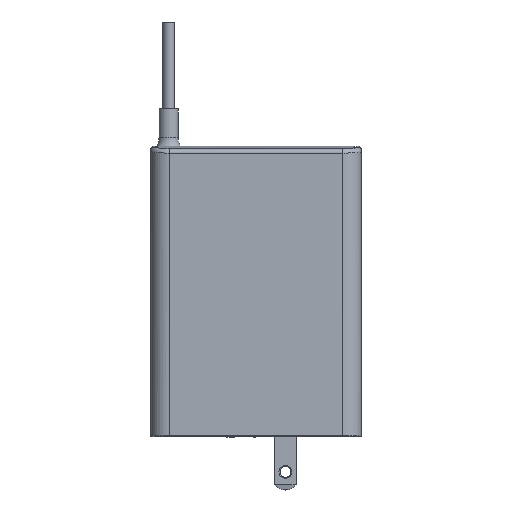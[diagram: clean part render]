
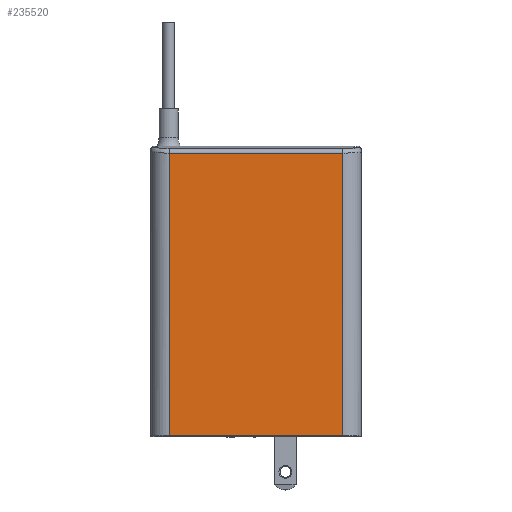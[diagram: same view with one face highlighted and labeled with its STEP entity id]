
A CAD part, top view. The second image highlights one B-rep face of the part: STEP entity #235520.
In plain terms, the highlighted planar face has unit normal (0, 0, 1).
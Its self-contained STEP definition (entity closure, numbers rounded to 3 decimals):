
#229060=CARTESIAN_POINT('',(-24.715,153.683,
21.101));
#229070=VERTEX_POINT('',#229060);
#229530=CARTESIAN_POINT('',(26.285,153.683,
21.101));
#229540=VERTEX_POINT('',#229530);
#229570=CARTESIAN_POINT('',(-24.715,153.683,
21.101));
#229580=DIRECTION('',(1.,0.,0.));
#229590=VECTOR('',#229580,1.);
#229600=LINE('',#229570,#229590);
#229610=EDGE_CURVE('',#229070,#229540,#229600,.T.);
#232090=CARTESIAN_POINT('',(26.285,70.55,21.101));
#232100=VERTEX_POINT('',#232090);
#232130=CARTESIAN_POINT('',(26.285,153.683,
21.101));
#232140=DIRECTION('',(0.,-1.,0.));
#232150=VECTOR('',#232140,1.);
#232160=LINE('',#232130,#232150);
#232170=EDGE_CURVE('',#229540,#232100,#232160,.T.);
#234890=CARTESIAN_POINT('',(-24.715,70.55,21.101));
#234900=VERTEX_POINT('',#234890);
#235190=CARTESIAN_POINT('',(-24.715,70.55,21.101));
#235200=DIRECTION('',(0.,1.,0.));
#235210=VECTOR('',#235200,1.);
#235220=LINE('',#235190,#235210);
#235230=EDGE_CURVE('',#234900,#229070,#235220,.T.);
#235360=CARTESIAN_POINT('',(0.785,114.,21.101));
#235370=DIRECTION('',(0.,0.,-1.));
#235380=DIRECTION('',(0.,1.,0.));
#235390=AXIS2_PLACEMENT_3D('',#235360,#235370,#235380);
#235400=PLANE('',#235390);
#235410=ORIENTED_EDGE('',*,*,#235230,.F.);
#235420=ORIENTED_EDGE('',*,*,#229610,.F.);
#235430=ORIENTED_EDGE('',*,*,#232170,.F.);
#235440=CARTESIAN_POINT('',(26.285,70.55,21.101));
#235450=DIRECTION('',(-1.,0.,0.));
#235460=VECTOR('',#235450,1.);
#235470=LINE('',#235440,#235460);
#235480=EDGE_CURVE('',#232100,#234900,#235470,.T.);
#235490=ORIENTED_EDGE('',*,*,#235480,.F.);
#235500=EDGE_LOOP('',(#235490,#235430,#235420,#235410));
#235510=FACE_OUTER_BOUND('',#235500,.T.);
#235520=ADVANCED_FACE('',(#235510),#235400,.F.);
